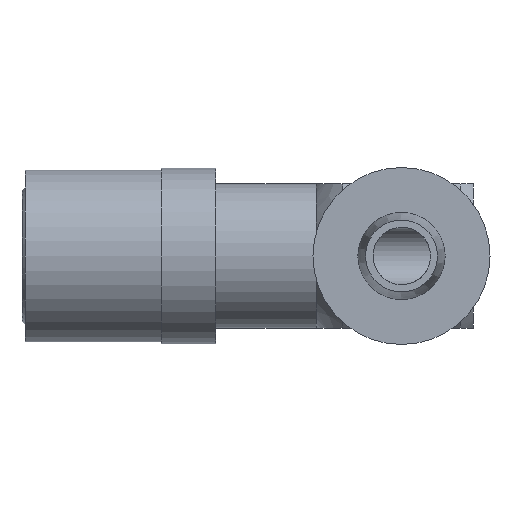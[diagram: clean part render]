
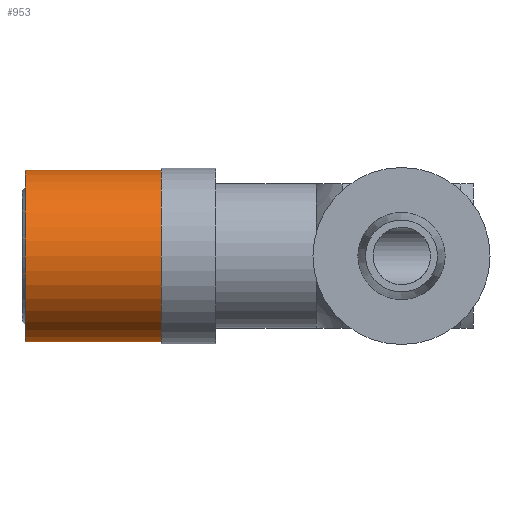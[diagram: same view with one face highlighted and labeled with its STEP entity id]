
A CAD part, front view. The second image highlights one B-rep face of the part: STEP entity #953.
In plain terms, the highlighted cylindrical face has radius 8.509 mm (diameter 17.018 mm), a full revolution.
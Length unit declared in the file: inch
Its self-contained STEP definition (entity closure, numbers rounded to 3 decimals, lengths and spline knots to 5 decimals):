
#285=ORIENTED_EDGE('',*,*,#519,.F.);
#286=ORIENTED_EDGE('',*,*,#518,.T.);
#518=EDGE_CURVE('',#620,#620,#701,.T.);
#519=EDGE_CURVE('',#621,#621,#702,.T.);
#620=VERTEX_POINT('',#1754);
#621=VERTEX_POINT('',#1757);
#701=CIRCLE('',#1093,0.335);
#702=CIRCLE('',#1095,0.335);
#753=EDGE_LOOP('',(#285));
#754=EDGE_LOOP('',(#286));
#849=FACE_BOUND('',#753,.T.);
#850=FACE_BOUND('',#754,.T.);
#918=CYLINDRICAL_SURFACE('',#1094,0.335);
#953=ADVANCED_FACE('',(#849,#850),#918,.T.);
#1093=AXIS2_PLACEMENT_3D('',#1753,#1353,#1354);
#1094=AXIS2_PLACEMENT_3D('',#1755,#1355,#1356);
#1095=AXIS2_PLACEMENT_3D('',#1756,#1357,#1358);
#1353=DIRECTION('',(1.,0.,0.));
#1354=DIRECTION('',(0.,0.,-1.));
#1355=DIRECTION('',(1.,0.,0.));
#1356=DIRECTION('',(0.,0.,-1.));
#1357=DIRECTION('',(1.,0.,0.));
#1358=DIRECTION('',(0.,0.,-1.));
#1753=CARTESIAN_POINT('',(0.,0.,0.));
#1754=CARTESIAN_POINT('',(0.,0.,-0.335));
#1755=CARTESIAN_POINT('',(1.9016,0.,0.));
#1756=CARTESIAN_POINT('',(0.53,0.,0.));
#1757=CARTESIAN_POINT('',(0.53,0.,-0.335));
